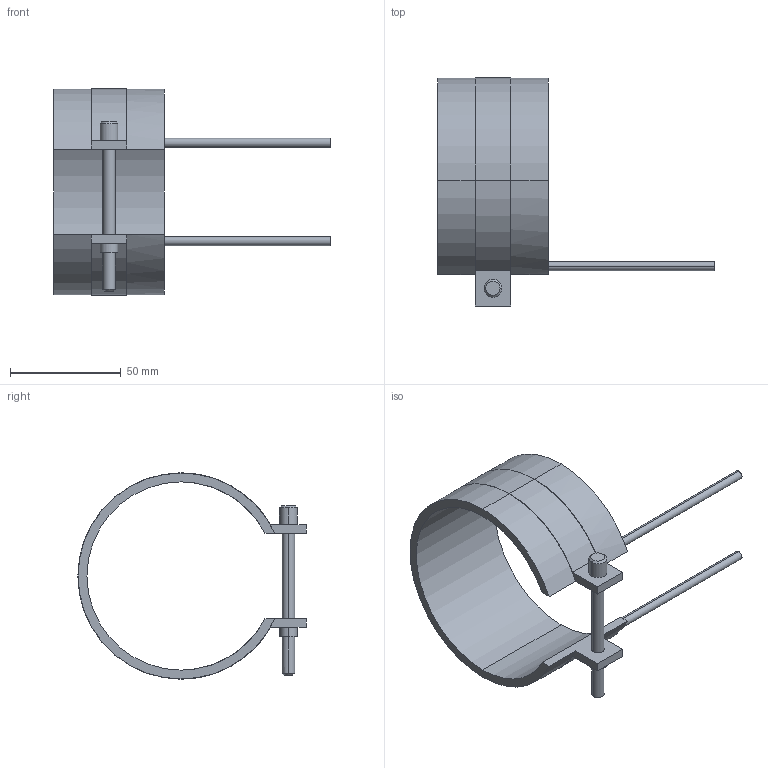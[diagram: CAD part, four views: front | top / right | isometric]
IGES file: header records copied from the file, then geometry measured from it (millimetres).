
Start section: START RECORD GO HERE.
Global section: file name: 14085050.igs; native system: DASSAULT SYSTEMES CATIA V5 R20 - www.3ds.com; preprocessor: CATIA Version 5 Release 20 ; author: Utente; organization: NB04-ASUS; date: 20210406.181553; units: millimetre
Bounding box: 125 x 103.1 x 93.2 mm (x, y, z)
Surface area: 30722.3 mm2 (no closed solid volume)
Topology: 0 solids, 0 shells, 45 faces, 232 edges, 232 vertices
Faces by surface type: revolution 28, plane 17
